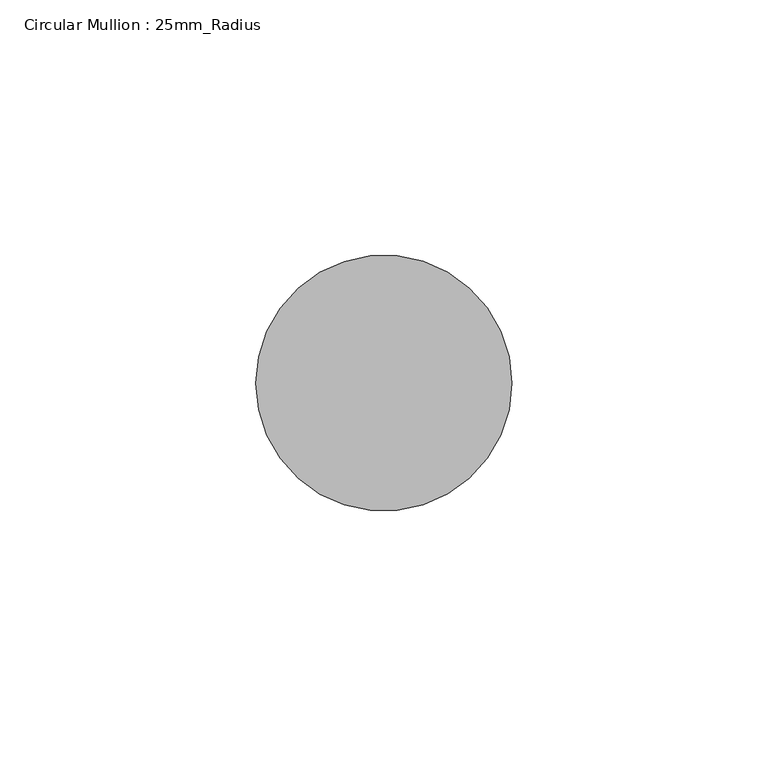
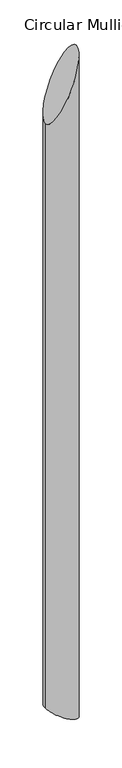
"""IFC4 building model written with IfcOpenShell, lengths in millimetres: member geometry, Circular Mullion : 25mm_Radius."""

from ifc_helpers import new_model, si_unit, frame, origin, place, context, project, spatial, ellipse_curve, source, transform, mapped, element, save
from ifc_brep_helpers import plane_surface, cylinder_surface, advanced_brep


def circular_mullion_25mm_radius_527d34b2(model_context):
    return source(origin(), model_context, "Body", "AdvancedBrep", [
        advanced_brep(
        [(-50.0, 0.0, -114.0669525), (0.0, 0.0, 0.0), (0.0, 0.0, -1120.0), (-50.0, 0.0, -1095.4241439)],
        [
            (0, 1, ellipse_curve(frame((-25.0, 0.0, -57.0334762), z_axis=(0.9158749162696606, 0.0, -0.40146374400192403), x_axis=(0.4014637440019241, 0.0, 0.9158749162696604)), 62.2721239, 25.0)),
            (1, 2),
            (2, 3, ellipse_curve(frame((-25.0, 0.0, -1107.7120719), z_axis=(0.44111284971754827, 0.0, 0.8974516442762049), x_axis=(-0.8974516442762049, 0.0, 0.44111284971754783)), 27.8566541, 25.0)),
            (3, 0),
            (1, 0, ellipse_curve(frame((-25.0, 0.0, -57.0334762), z_axis=(0.9158749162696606, 0.0, -0.40146374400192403), x_axis=(0.4014637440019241, 0.0, 0.9158749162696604)), 62.2721239, 25.0)),
            (3, 2, ellipse_curve(frame((-25.0, 0.0, -1107.7120719), z_axis=(0.44111284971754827, 0.0, 0.8974516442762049), x_axis=(-0.8974516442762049, 0.0, 0.44111284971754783)), 27.8566541, 25.0)),
        ],
        [
            cylinder_surface(frame((-25.0, 0.0, 0.0), z_axis=(0.0, 0.0, 1.0), x_axis=(1.0, 0.0, 0.0)), 25.0),
            plane_surface(frame((0.0, -304.8, 0.0), z_axis=(-0.9158749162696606, 0.0, 0.40146374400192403), x_axis=(-0.40146374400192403, 0.0, -0.9158749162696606))),
            plane_surface(frame((0.0, -304.8, -1120.0), z_axis=(-0.44111284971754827, 0.0, -0.8974516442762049), x_axis=(-0.8974516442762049, 0.0, 0.44111284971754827))),
        ],
        [
            (0, [[1, 2, 3, 4]]),
            (0, [[5, -4, 6, -2]]),
            (1, [[-1, -5]]),
            (2, [[-6, -3]]),
        ],
    ),
    ])


if __name__ == "__main__":
    model = new_model("IFC4")
    model_context = context("Model", 3, world=origin())
    ifc_project = project(units=[si_unit("LENGTHUNIT", "METRE", prefix="MILLI")], contexts=[model_context])
    site = spatial("IfcSite", under=ifc_project)
    building = spatial("IfcBuilding", under=site)
    placement = place(None, origin())
    circular_mullion_25mm_radius_shape = circular_mullion_25mm_radius_527d34b2(model_context)
    element("IfcMember", 1, ObjectType="Circular Mullion : 25mm_Radius", at=placement, inside=building, context=model_context, shape_type="MappedRepresentation", body=[
        mapped(circular_mullion_25mm_radius_shape, transform((0.0, 0.0, 0.0), x_axis=(1.0, 0.0, 0.0), y_axis=(0.0, 1.0, 0.0), z_axis=(0.0, 0.0, 1.0))),
    ])
    save(model, "model.ifc")
